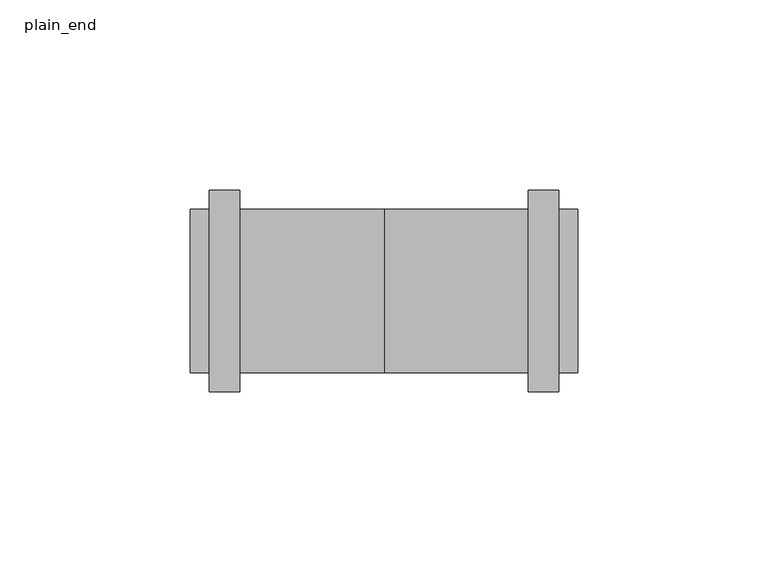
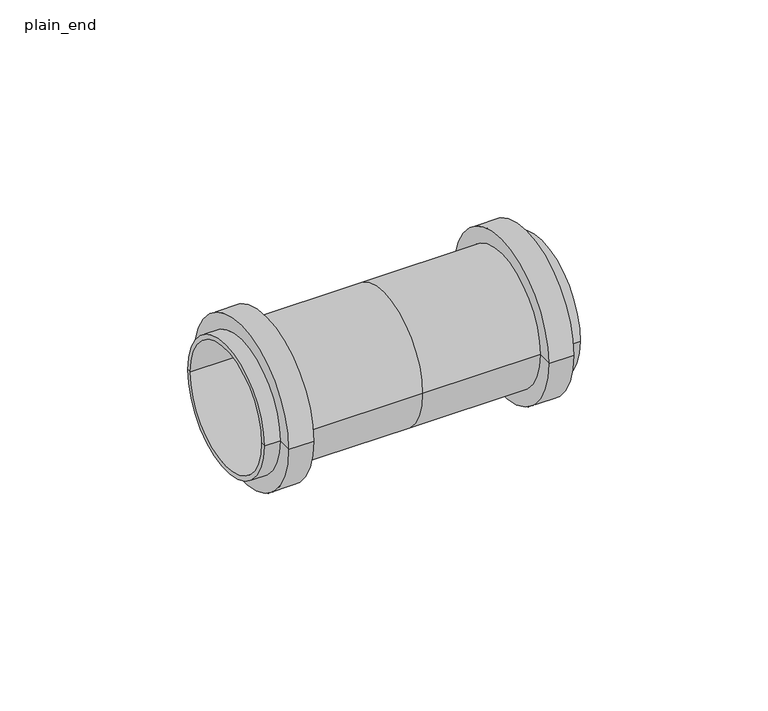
"""IFC4 building model written with IfcOpenShell, lengths in millimetres: pipe fitting geometry, PIF_UN_S&W PVC-HT Coupler GY ø40_Wavin : plain_end."""

from ifc_helpers import new_model, si_unit, frame, origin, place, context, project, spatial, polyline, circle_curve, source, transform, mapped, element, save
from ifc_brep_helpers import plane_surface, cylinder_surface, revolved_surface, advanced_brep


def plain_end_d811470f(model_context):
    return source(origin(), model_context, "Body", "AdvancedBrep", [
        advanced_brep(
        [(-0.5, -20.0, 0.0), (-0.5, 20.0, 0.0), (-51.0, 20.0, 0.0), (-51.0, -20.0, 0.0), (-51.0, -21.5, 0.0), (-51.0, 21.5, 0.0), (-46.0, 21.5, 0.0), (-46.0, -21.5, 0.0), (0.0, 21.5, 0.0), (0.0, -21.5, 0.0), (-38.0, -21.5, 0.0), (-38.0, 21.5, 0.0), (51.0, -20.0, 0.0), (51.0, 20.0, 0.0), (0.5, 20.0, 0.0), (0.5, -20.0, 0.0), (38.0, 21.5, 0.0), (38.0, -21.5, 0.0), (51.0, 21.5, 0.0), (51.0, -21.5, 0.0), (46.0, -21.5, 0.0), (46.0, 21.5, 0.0), (-0.5, 0.0, 0.0), (0.5, 0.0, 0.0), (-46.0, -26.5, 0.0), (-46.0, 26.5, 0.0), (-38.0, 26.5, 0.0), (-38.0, -26.5, 0.0), (46.0, -26.5, 0.0), (46.0, 26.5, 0.0), (38.0, -26.5, 0.0), (38.0, 26.5, 0.0)],
        [
            (0, 1, circle_curve(frame((-0.5, 0.0, 0.0), z_axis=(1.0, 0.0, 0.0), x_axis=(0.0, 1.0, 0.0)), 20.0)),
            (1, 2),
            (2, 3, circle_curve(frame((-51.0, 0.0, 0.0), z_axis=(-1.0, 0.0, 0.0), x_axis=(0.0, 1.0, 0.0)), 20.0)),
            (3, 0),
            (1, 0, circle_curve(frame((-0.5, 0.0, 0.0), z_axis=(1.0, 0.0, 0.0), x_axis=(0.0, 1.0, 0.0)), 20.0)),
            (3, 2, circle_curve(frame((-51.0, 0.0, 0.0), z_axis=(-1.0, 0.0, 0.0), x_axis=(0.0, 1.0, 0.0)), 20.0)),
            (4, 5, circle_curve(frame((-51.0, 0.0, 0.0), z_axis=(1.0, 0.0, 0.0), x_axis=(0.0, 1.0, 0.0)), 21.5)),
            (5, 6),
            (6, 7, circle_curve(frame((-46.0, 0.0, 0.0), z_axis=(-1.0, 0.0, 0.0), x_axis=(0.0, 1.0, 0.0)), 21.5)),
            (7, 4),
            (8, 9, circle_curve(frame((0.0, 0.0, 0.0), z_axis=(-1.0, 0.0, 0.0), x_axis=(0.0, 1.0, 0.0)), 21.5)),
            (9, 10),
            (10, 11, circle_curve(frame((-38.0, 0.0, 0.0), z_axis=(1.0, 0.0, 0.0), x_axis=(0.0, 1.0, 0.0)), 21.5)),
            (11, 8),
            (5, 4, circle_curve(frame((-51.0, 0.0, 0.0), z_axis=(1.0, 0.0, 0.0), x_axis=(0.0, 1.0, 0.0)), 21.5)),
            (7, 6, circle_curve(frame((-46.0, 0.0, 0.0), z_axis=(-1.0, 0.0, 0.0), x_axis=(0.0, 1.0, 0.0)), 21.5)),
            (9, 8, circle_curve(frame((0.0, 0.0, 0.0), z_axis=(-1.0, 0.0, 0.0), x_axis=(0.0, 1.0, 0.0)), 21.5)),
            (11, 10, circle_curve(frame((-38.0, 0.0, 0.0), z_axis=(1.0, 0.0, 0.0), x_axis=(0.0, 1.0, 0.0)), 21.5)),
            (12, 13, circle_curve(frame((51.0, 0.0, 0.0), z_axis=(1.0, 0.0, 0.0), x_axis=(0.0, 1.0, 0.0)), 20.0)),
            (13, 14),
            (14, 15, circle_curve(frame((0.5, 0.0, 0.0), z_axis=(-1.0, 0.0, 0.0), x_axis=(0.0, 1.0, 0.0)), 20.0)),
            (15, 12),
            (13, 12, circle_curve(frame((51.0, 0.0, 0.0), z_axis=(1.0, 0.0, 0.0), x_axis=(0.0, 1.0, 0.0)), 20.0)),
            (15, 14, circle_curve(frame((0.5, 0.0, 0.0), z_axis=(-1.0, 0.0, 0.0), x_axis=(0.0, 1.0, 0.0)), 20.0)),
            (8, 16),
            (16, 17, circle_curve(frame((38.0, 0.0, 0.0), z_axis=(-1.0, 0.0, 0.0), x_axis=(0.0, 1.0, 0.0)), 21.5)),
            (17, 9),
            (18, 19, circle_curve(frame((51.0, 0.0, 0.0), z_axis=(-1.0, 0.0, 0.0), x_axis=(0.0, 1.0, 0.0)), 21.5)),
            (19, 20),
            (20, 21, circle_curve(frame((46.0, 0.0, 0.0), z_axis=(1.0, 0.0, 0.0), x_axis=(0.0, 1.0, 0.0)), 21.5)),
            (21, 18),
            (17, 16, circle_curve(frame((38.0, 0.0, 0.0), z_axis=(-1.0, 0.0, 0.0), x_axis=(0.0, 1.0, 0.0)), 21.5)),
            (19, 18, circle_curve(frame((51.0, 0.0, 0.0), z_axis=(-1.0, 0.0, 0.0), x_axis=(0.0, 1.0, 0.0)), 21.5)),
            (21, 20, circle_curve(frame((46.0, 0.0, 0.0), z_axis=(1.0, 0.0, 0.0), x_axis=(0.0, 1.0, 0.0)), 21.5)),
            (12, 19),
            (18, 13),
            (0, 22),
            (22, 1),
            (14, 23),
            (23, 15),
            (2, 5),
            (4, 3),
            (24, 25, circle_curve(frame((-46.0, 0.0, 0.0), z_axis=(1.0, 0.0, 0.0), x_axis=(0.0, 1.0, 0.0)), 26.5)),
            (25, 26),
            (26, 27, circle_curve(frame((-38.0, 0.0, 0.0), z_axis=(-1.0, 0.0, 0.0), x_axis=(0.0, 1.0, 0.0)), 26.5)),
            (27, 24),
            (25, 24, circle_curve(frame((-46.0, 0.0, 0.0), z_axis=(1.0, 0.0, 0.0), x_axis=(0.0, 1.0, 0.0)), 26.5)),
            (27, 26, circle_curve(frame((-38.0, 0.0, 0.0), z_axis=(-1.0, 0.0, 0.0), x_axis=(0.0, 1.0, 0.0)), 26.5)),
            (24, 7),
            (6, 25),
            (26, 11),
            (10, 27),
            (28, 29, circle_curve(frame((46.0, 0.0, 0.0), z_axis=(1.0, 0.0, 0.0), x_axis=(0.0, 1.0, 0.0)), 26.5)),
            (29, 21),
            (20, 28),
            (29, 28, circle_curve(frame((46.0, 0.0, 0.0), z_axis=(1.0, 0.0, 0.0), x_axis=(0.0, 1.0, 0.0)), 26.5)),
            (28, 30),
            (30, 31, circle_curve(frame((38.0, 0.0, 0.0), z_axis=(1.0, 0.0, 0.0), x_axis=(0.0, 1.0, 0.0)), 26.5)),
            (31, 29),
            (31, 30, circle_curve(frame((38.0, 0.0, 0.0), z_axis=(1.0, 0.0, 0.0), x_axis=(0.0, 1.0, 0.0)), 26.5)),
            (30, 17),
            (16, 31),
        ],
        [
            revolved_surface(polyline([(-51.0, 20.0, 0.0), (-0.5, 20.0, 0.0)]), (1986.5, 0.0, 0.0), (-1.0, 0.0, 0.0)),
            cylinder_surface(frame((1986.5, 0.0, 0.0), z_axis=(-1.0, 0.0, 0.0), x_axis=(0.0, 1.0, 0.0)), 21.5),
            revolved_surface(polyline([(0.5, 20.0, 0.0), (51.0, 20.0, 0.0)]), (1986.5, 0.0, 0.0), (-1.0, 0.0, 0.0)),
            plane_surface(frame((51.0, 0.0, 0.0), z_axis=(1.0, 0.0, 0.0), x_axis=(0.0, 1.0, 0.0))),
            plane_surface(frame((-0.5, 0.0, 0.0), z_axis=(-1.0, 0.0, 0.0), x_axis=(0.0, 1.0, 0.0))),
            plane_surface(frame((0.5, 0.0, 0.0), z_axis=(1.0, 0.0, 0.0), x_axis=(0.0, 1.0, 0.0))),
            plane_surface(frame((-51.0, 0.0, 0.0), z_axis=(-1.0, 0.0, 0.0), x_axis=(0.0, 1.0, 0.0))),
            cylinder_surface(frame((-66.3524883, 0.0, 0.0), z_axis=(-1.0, 0.0, 0.0), x_axis=(0.0, 1.0, 0.0)), 26.5),
            plane_surface(frame((-46.0, 0.0, 0.0), z_axis=(-1.0, 0.0, 0.0), x_axis=(0.0, 1.0, 0.0))),
            plane_surface(frame((-38.0, 0.0, 0.0), z_axis=(1.0, 0.0, 0.0), x_axis=(0.0, 1.0, 0.0))),
            plane_surface(frame((46.0, 0.0, 0.0), z_axis=(1.0, 0.0, 0.0), x_axis=(0.0, 1.0, 0.0))),
            plane_surface(frame((38.0, 0.0, 0.0), z_axis=(-1.0, 0.0, 0.0), x_axis=(0.0, 1.0, 0.0))),
        ],
        [
            (0, [[1, 2, 3, 4]]),
            (0, [[-2, 5, -4, 6]]),
            (1, [[7, 8, 9, 10]]),
            (1, [[11, 12, 13, 14]]),
            (1, [[15, -10, 16, -8]]),
            (1, [[17, -14, 18, -12]]),
            (2, [[19, 20, 21, 22]]),
            (2, [[-20, 23, -22, 24]]),
            (1, [[-11, 25, 26, 27]]),
            (1, [[28, 29, 30, 31]]),
            (1, [[-17, -27, 32, -25]]),
            (1, [[33, -31, 34, -29]]),
            (3, [[-19, 35, -28, 36]]),
            (3, [[-23, -36, -33, -35]]),
            (4, [[-1, 37, 38]]),
            (4, [[-5, -38, -37]]),
            (5, [[-21, 39, 40]]),
            (5, [[-24, -40, -39]]),
            (6, [[-3, 41, -7, 42]]),
            (6, [[-6, -42, -15, -41]]),
            (7, [[43, 44, 45, 46]]),
            (7, [[-44, 47, -46, 48]]),
            (8, [[-43, 49, -9, 50]]),
            (8, [[-47, -50, -16, -49]]),
            (9, [[-45, 51, -13, 52]]),
            (9, [[-48, -52, -18, -51]]),
            (10, [[53, 54, -30, 55]]),
            (10, [[-54, 56, -55, -34]]),
            (7, [[-53, 57, 58, 59]]),
            (7, [[-56, -59, 60, -57]]),
            (11, [[-58, 61, -26, 62]]),
            (11, [[-60, -62, -32, -61]]),
        ],
    ),
    ])


if __name__ == "__main__":
    model = new_model("IFC4")
    model_context = context("Model", 3, world=origin())
    ifc_project = project(units=[si_unit("LENGTHUNIT", "METRE", prefix="MILLI")], contexts=[model_context])
    site = spatial("IfcSite", under=ifc_project)
    building = spatial("IfcBuilding", under=site)
    placement = place(None, origin())
    plain_end_shape = plain_end_d811470f(model_context)
    element("IfcPipeFitting", 1, ObjectType="PIF_UN_S&W PVC-HT Coupler GY ø40_Wavin : plain_end", at=placement, inside=building, context=model_context, shape_type="MappedRepresentation", body=[
        mapped(plain_end_shape, transform((0.0, 0.0, 0.0), x_axis=(1.0, 0.0, 0.0), y_axis=(0.0, 1.0, 0.0), z_axis=(0.0, 0.0, 1.0))),
    ])
    save(model, "model.ifc")
